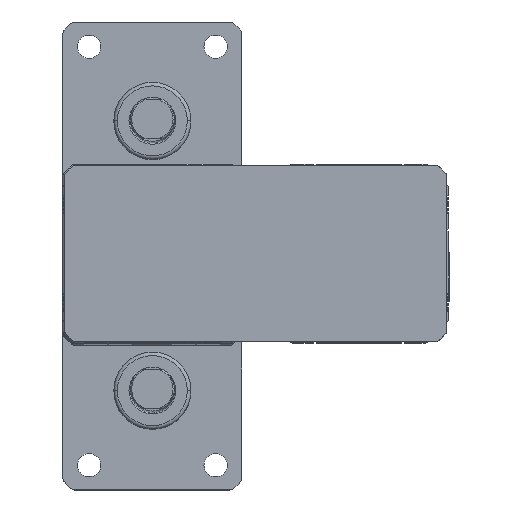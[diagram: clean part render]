
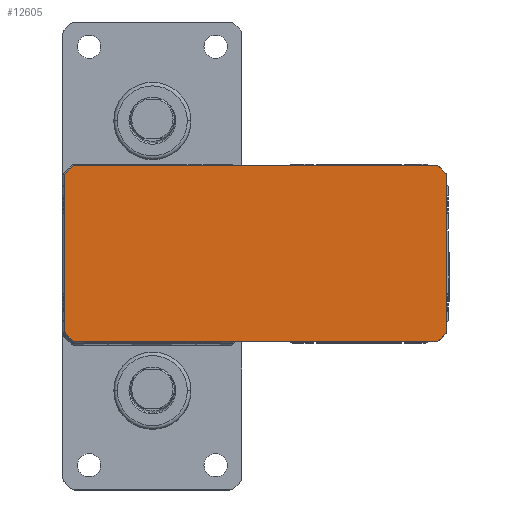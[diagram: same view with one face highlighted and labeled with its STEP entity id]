
A CAD part, top view. The second image highlights one B-rep face of the part: STEP entity #12605.
In plain terms, the highlighted planar face has unit normal (0, 0, 1).
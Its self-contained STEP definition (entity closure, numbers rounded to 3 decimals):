
#55 = CARTESIAN_POINT ( 'NONE',  ( -29.061, 31.561, 494. ) ) ;
#159 = AXIS2_PLACEMENT_3D ( 'NONE', #44039, #20005, #48088 ) ;
#811 = LINE ( 'NONE', #5215, #43772 ) ;
#1820 = DIRECTION ( 'NONE',  ( 0., 0., 1. ) ) ;
#2002 = DIRECTION ( 'NONE',  ( 0., 0., 1. ) ) ;
#3808 = DIRECTION ( 'NONE',  ( -0.707, -0.707, 0. ) ) ;
#3978 = CARTESIAN_POINT ( 'NONE',  ( 103., -30.5, 494. ) ) ;
#5101 = EDGE_CURVE ( 'NONE', #26415, #13962, #18400, .T. ) ;
#5215 = CARTESIAN_POINT ( 'NONE',  ( 104.061, -31.561, 494. ) ) ;
#5718 = CIRCLE ( 'NONE', #52332, 1.5 ) ;
#5990 = VECTOR ( 'NONE', #43333, 1000. ) ;
#6504 = EDGE_CURVE ( 'NONE', #40242, #35893, #47048, .T. ) ;
#7149 = EDGE_CURVE ( 'NONE', #35893, #43465, #7270, .T. ) ;
#7270 = CIRCLE ( 'NONE', #159, 1.5 ) ;
#7556 = ORIENTED_EDGE ( 'NONE', *, *, #48036, .T. ) ;
#7663 = LINE ( 'NONE', #28228, #29163 ) ;
#8065 = DIRECTION ( 'NONE',  ( 1., 0., 0. ) ) ;
#9304 = DIRECTION ( 'NONE',  ( 0.707, 0.707, 0. ) ) ;
#9964 = CARTESIAN_POINT ( 'NONE',  ( -28., 30.5, 494. ) ) ;
#10007 = PLANE ( 'NONE',  #45601 ) ;
#10182 = VERTEX_POINT ( 'NONE', #31987 ) ;
#10202 = VERTEX_POINT ( 'NONE', #11865 ) ;
#10227 = CARTESIAN_POINT ( 'NONE',  ( 105.5, 28., 494. ) ) ;
#10235 = ORIENTED_EDGE ( 'NONE', *, *, #39946, .T. ) ;
#10824 = VERTEX_POINT ( 'NONE', #55 ) ;
#11865 = CARTESIAN_POINT ( 'NONE',  ( -28., -32., 494. ) ) ;
#11916 = LINE ( 'NONE', #17775, #32117 ) ;
#12605 = ADVANCED_FACE ( 'NONE', ( #48920 ), #10007, .T. ) ;
#12699 = CARTESIAN_POINT ( 'NONE',  ( -28., -30.5, 494. ) ) ;
#12744 = VERTEX_POINT ( 'NONE', #27319 ) ;
#13697 = ORIENTED_EDGE ( 'NONE', *, *, #44980, .T. ) ;
#13715 = DIRECTION ( 'NONE',  ( 0.707, -0.707, 0. ) ) ;
#13962 = VERTEX_POINT ( 'NONE', #23319 ) ;
#14065 = DIRECTION ( 'NONE',  ( 1., 0., 0. ) ) ;
#14294 = EDGE_CURVE ( 'NONE', #10182, #42387, #811, .T. ) ;
#14337 = DIRECTION ( 'NONE',  ( 1., 0., 0. ) ) ;
#14955 = VECTOR ( 'NONE', #42889, 1000. ) ;
#15263 = CARTESIAN_POINT ( 'NONE',  ( -29.061, -31.561, 494. ) ) ;
#16781 = DIRECTION ( 'NONE',  ( 1., 0., 0. ) ) ;
#16869 = CARTESIAN_POINT ( 'NONE',  ( 103., 30.5, 494. ) ) ;
#17561 = ORIENTED_EDGE ( 'NONE', *, *, #6504, .T. ) ;
#17775 = CARTESIAN_POINT ( 'NONE',  ( -31.561, -29.061, 494. ) ) ;
#18015 = EDGE_CURVE ( 'NONE', #43465, #38918, #11916, .T. ) ;
#18208 = DIRECTION ( 'NONE',  ( -1., 0., 0. ) ) ;
#18400 = CIRCLE ( 'NONE', #35335, 1.5 ) ;
#18814 = CARTESIAN_POINT ( 'NONE',  ( -32., 28., 494. ) ) ;
#19017 = VERTEX_POINT ( 'NONE', #29132 ) ;
#19257 = ORIENTED_EDGE ( 'NONE', *, *, #29501, .T. ) ;
#19899 = DIRECTION ( 'NONE',  ( 0., 1., 0. ) ) ;
#20005 = DIRECTION ( 'NONE',  ( 0., 0., 1. ) ) ;
#20698 = ORIENTED_EDGE ( 'NONE', *, *, #14294, .T. ) ;
#20746 = ORIENTED_EDGE ( 'NONE', *, *, #28827, .T. ) ;
#20958 = DIRECTION ( 'NONE',  ( 1., 0., 0. ) ) ;
#22181 = AXIS2_PLACEMENT_3D ( 'NONE', #3978, #32238, #8065 ) ;
#22432 = EDGE_CURVE ( 'NONE', #42387, #47950, #23506, .T. ) ;
#22624 = CIRCLE ( 'NONE', #48872, 1.5 ) ;
#23319 = CARTESIAN_POINT ( 'NONE',  ( 103., 32., 494. ) ) ;
#23506 = CIRCLE ( 'NONE', #29833, 1.5 ) ;
#23914 = CARTESIAN_POINT ( 'NONE',  ( -30.5, 28., 494. ) ) ;
#23916 = CARTESIAN_POINT ( 'NONE',  ( -32., -28., 494. ) ) ;
#24102 = EDGE_CURVE ( 'NONE', #13962, #37495, #49718, .T. ) ;
#24407 = CARTESIAN_POINT ( 'NONE',  ( 107., 28., 494. ) ) ;
#24492 = CIRCLE ( 'NONE', #22181, 1.5 ) ;
#24623 = ORIENTED_EDGE ( 'NONE', *, *, #46646, .T. ) ;
#25501 = VERTEX_POINT ( 'NONE', #24407 ) ;
#26105 = CARTESIAN_POINT ( 'NONE',  ( 105.5, -28., 494. ) ) ;
#26260 = CARTESIAN_POINT ( 'NONE',  ( -32., 28., 494. ) ) ;
#26415 = VERTEX_POINT ( 'NONE', #40704 ) ;
#26438 = ORIENTED_EDGE ( 'NONE', *, *, #35878, .T. ) ;
#26734 = ORIENTED_EDGE ( 'NONE', *, *, #7149, .T. ) ;
#27211 = ORIENTED_EDGE ( 'NONE', *, *, #5101, .T. ) ;
#27319 = CARTESIAN_POINT ( 'NONE',  ( -31.561, 29.061, 494. ) ) ;
#27953 = DIRECTION ( 'NONE',  ( 1., 0., 0. ) ) ;
#28228 = CARTESIAN_POINT ( 'NONE',  ( -29.061, 31.561, 494. ) ) ;
#28827 = EDGE_CURVE ( 'NONE', #38918, #10202, #5718, .T. ) ;
#29132 = CARTESIAN_POINT ( 'NONE',  ( 106.561, 29.061, 494. ) ) ;
#29163 = VECTOR ( 'NONE', #3808, 1000. ) ;
#29501 = EDGE_CURVE ( 'NONE', #37495, #10824, #45401, .T. ) ;
#29833 = AXIS2_PLACEMENT_3D ( 'NONE', #26105, #1820, #30134 ) ;
#30052 = VECTOR ( 'NONE', #48522, 1000. ) ;
#30134 = DIRECTION ( 'NONE',  ( 1., 0., 0. ) ) ;
#30313 = DIRECTION ( 'NONE',  ( 1., 0., 0. ) ) ;
#31758 = ORIENTED_EDGE ( 'NONE', *, *, #22432, .T. ) ;
#31987 = CARTESIAN_POINT ( 'NONE',  ( 104.061, -31.561, 494. ) ) ;
#32117 = VECTOR ( 'NONE', #13715, 1000. ) ;
#32238 = DIRECTION ( 'NONE',  ( 0., 0., 1. ) ) ;
#34159 = EDGE_LOOP ( 'NONE', ( #26734, #45422, #20746, #47983, #13697, #20698, #31758, #26438, #40864, #24623, #27211, #48707, #19257, #10235, #7556, #17561 ) ) ;
#35335 = AXIS2_PLACEMENT_3D ( 'NONE', #16869, #45013, #20958 ) ;
#35344 = CARTESIAN_POINT ( 'NONE',  ( 107., -28., 494. ) ) ;
#35878 = EDGE_CURVE ( 'NONE', #47950, #25501, #48402, .T. ) ;
#35893 = VERTEX_POINT ( 'NONE', #23916 ) ;
#36876 = EDGE_CURVE ( 'NONE', #10202, #50157, #41998, .T. ) ;
#37210 = CARTESIAN_POINT ( 'NONE',  ( 106.561, -29.061, 494. ) ) ;
#37495 = VERTEX_POINT ( 'NONE', #45827 ) ;
#37700 = VECTOR ( 'NONE', #19899, 1000. ) ;
#38158 = DIRECTION ( 'NONE',  ( 0., 0., 1. ) ) ;
#38184 = LINE ( 'NONE', #39259, #5990 ) ;
#38427 = DIRECTION ( 'NONE',  ( 0., 0., 1. ) ) ;
#38918 = VERTEX_POINT ( 'NONE', #15263 ) ;
#39007 = VECTOR ( 'NONE', #18208, 1000. ) ;
#39259 = CARTESIAN_POINT ( 'NONE',  ( 106.561, 29.061, 494. ) ) ;
#39946 = EDGE_CURVE ( 'NONE', #10824, #12744, #7663, .T. ) ;
#40242 = VERTEX_POINT ( 'NONE', #26260 ) ;
#40704 = CARTESIAN_POINT ( 'NONE',  ( 104.061, 31.561, 494. ) ) ;
#40864 = ORIENTED_EDGE ( 'NONE', *, *, #41260, .T. ) ;
#40869 = DIRECTION ( 'NONE',  ( 0., 0., 1. ) ) ;
#41260 = EDGE_CURVE ( 'NONE', #25501, #19017, #46600, .T. ) ;
#41998 = LINE ( 'NONE', #44496, #30052 ) ;
#42387 = VERTEX_POINT ( 'NONE', #37210 ) ;
#42889 = DIRECTION ( 'NONE',  ( 0., -1., 0. ) ) ;
#43333 = DIRECTION ( 'NONE',  ( -0.707, 0.707, 0. ) ) ;
#43465 = VERTEX_POINT ( 'NONE', #44492 ) ;
#43686 = CARTESIAN_POINT ( 'NONE',  ( 103., -32., 494. ) ) ;
#43772 = VECTOR ( 'NONE', #9304, 1000. ) ;
#43900 = AXIS2_PLACEMENT_3D ( 'NONE', #9964, #38158, #14065 ) ;
#44039 = CARTESIAN_POINT ( 'NONE',  ( -30.5, -28., 494. ) ) ;
#44492 = CARTESIAN_POINT ( 'NONE',  ( -31.561, -29.061, 494. ) ) ;
#44496 = CARTESIAN_POINT ( 'NONE',  ( -28., -32., 494. ) ) ;
#44980 = EDGE_CURVE ( 'NONE', #50157, #10182, #24492, .T. ) ;
#45013 = DIRECTION ( 'NONE',  ( 0., 0., 1. ) ) ;
#45401 = CIRCLE ( 'NONE', #43900, 1.5 ) ;
#45422 = ORIENTED_EDGE ( 'NONE', *, *, #18015, .T. ) ;
#45601 = AXIS2_PLACEMENT_3D ( 'NONE', #46299, #2002, #30313 ) ;
#45827 = CARTESIAN_POINT ( 'NONE',  ( -28., 32., 494. ) ) ;
#46299 = CARTESIAN_POINT ( 'NONE',  ( -30.5, -28., 494. ) ) ;
#46315 = CARTESIAN_POINT ( 'NONE',  ( 103., 32., 494. ) ) ;
#46600 = CIRCLE ( 'NONE', #47243, 1.5 ) ;
#46646 = EDGE_CURVE ( 'NONE', #19017, #26415, #38184, .T. ) ;
#47048 = LINE ( 'NONE', #18814, #14955 ) ;
#47243 = AXIS2_PLACEMENT_3D ( 'NONE', #10227, #38427, #14337 ) ;
#47950 = VERTEX_POINT ( 'NONE', #35344 ) ;
#47983 = ORIENTED_EDGE ( 'NONE', *, *, #36876, .T. ) ;
#47987 = CARTESIAN_POINT ( 'NONE',  ( 107., -28., 494. ) ) ;
#48036 = EDGE_CURVE ( 'NONE', #12744, #40242, #22624, .T. ) ;
#48088 = DIRECTION ( 'NONE',  ( 1., 0., 0. ) ) ;
#48402 = LINE ( 'NONE', #47987, #37700 ) ;
#48522 = DIRECTION ( 'NONE',  ( 1., 0., 0. ) ) ;
#48707 = ORIENTED_EDGE ( 'NONE', *, *, #24102, .T. ) ;
#48872 = AXIS2_PLACEMENT_3D ( 'NONE', #23914, #52060, #27953 ) ;
#48920 = FACE_OUTER_BOUND ( 'NONE', #34159, .T. ) ;
#49718 = LINE ( 'NONE', #46315, #39007 ) ;
#50157 = VERTEX_POINT ( 'NONE', #43686 ) ;
#52060 = DIRECTION ( 'NONE',  ( 0., 0., 1. ) ) ;
#52332 = AXIS2_PLACEMENT_3D ( 'NONE', #12699, #40869, #16781 ) ;
